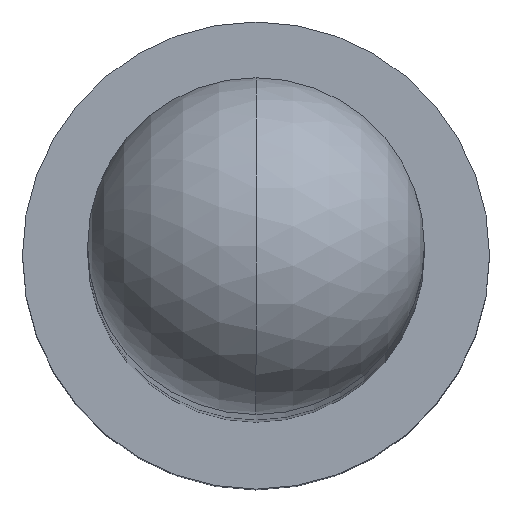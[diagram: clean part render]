
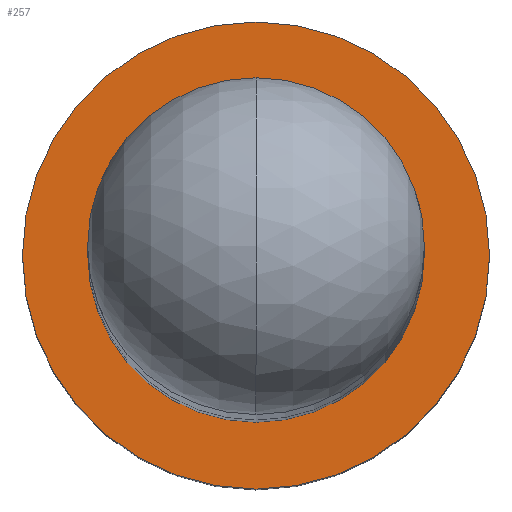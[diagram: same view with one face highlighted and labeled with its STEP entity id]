
A CAD part, top view. The second image highlights one B-rep face of the part: STEP entity #257.
In plain terms, the highlighted planar face has unit normal (0, 0, 1).
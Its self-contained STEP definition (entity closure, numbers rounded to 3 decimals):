
#3 = AXIS2_PLACEMENT_3D ( 'NONE', #442, #35, #36 ) ;
#4 = EDGE_LOOP ( 'NONE', ( #83, #297 ) ) ;
#15 = EDGE_CURVE ( 'NONE', #117, #154, #215, .T. ) ;
#19 = CIRCLE ( 'NONE', #382, 0.51 ) ;
#35 = DIRECTION ( 'NONE',  ( 0., 0., -1. ) ) ;
#36 = DIRECTION ( 'NONE',  ( -1., 0., 0. ) ) ;
#41 = DIRECTION ( 'NONE',  ( 0., 0., 1. ) ) ;
#52 = CIRCLE ( 'NONE', #220, 0.95 ) ;
#68 = EDGE_LOOP ( 'NONE', ( #203, #460 ) ) ;
#70 = DIRECTION ( 'NONE',  ( 1., 0., 0. ) ) ;
#73 = VERTEX_POINT ( 'NONE', #82 ) ;
#82 = CARTESIAN_POINT ( 'NONE',  ( -0.51, 0., -10.29 ) ) ;
#83 = ORIENTED_EDGE ( 'NONE', *, *, #308, .F. ) ;
#102 = AXIS2_PLACEMENT_3D ( 'NONE', #274, #41, #392 ) ;
#107 = DIRECTION ( 'NONE',  ( 0., 0., 1. ) ) ;
#117 = VERTEX_POINT ( 'NONE', #309 ) ;
#142 = FACE_OUTER_BOUND ( 'NONE', #68, .T. ) ;
#145 = DIRECTION ( 'NONE',  ( 0., 0., 1. ) ) ;
#154 = VERTEX_POINT ( 'NONE', #262 ) ;
#203 = ORIENTED_EDGE ( 'NONE', *, *, #15, .T. ) ;
#214 = FACE_BOUND ( 'NONE', #4, .T. ) ;
#215 = CIRCLE ( 'NONE', #399, 0.95 ) ;
#218 = CARTESIAN_POINT ( 'NONE',  ( 0., 0., -10.29 ) ) ;
#220 = AXIS2_PLACEMENT_3D ( 'NONE', #330, #249, #294 ) ;
#241 = VERTEX_POINT ( 'NONE', #407 ) ;
#249 = DIRECTION ( 'NONE',  ( 0., 0., 1. ) ) ;
#251 = CARTESIAN_POINT ( 'NONE',  ( 0., 0., -10.29 ) ) ;
#257 = ADVANCED_FACE ( 'NONE', ( #214, #142 ), #323, .F. ) ;
#262 = CARTESIAN_POINT ( 'NONE',  ( -0.95, 0., -10.29 ) ) ;
#274 = CARTESIAN_POINT ( 'NONE',  ( 0., 0., -10.29 ) ) ;
#291 = EDGE_CURVE ( 'NONE', #154, #117, #52, .T. ) ;
#294 = DIRECTION ( 'NONE',  ( 1., 0., 0. ) ) ;
#297 = ORIENTED_EDGE ( 'NONE', *, *, #420, .F. ) ;
#308 = EDGE_CURVE ( 'NONE', #241, #73, #19, .T. ) ;
#309 = CARTESIAN_POINT ( 'NONE',  ( 0.95, 0., -10.29 ) ) ;
#323 = PLANE ( 'NONE',  #3 ) ;
#330 = CARTESIAN_POINT ( 'NONE',  ( 0., 0., -10.29 ) ) ;
#369 = CIRCLE ( 'NONE', #102, 0.51 ) ;
#370 = DIRECTION ( 'NONE',  ( 1., 0., 0. ) ) ;
#382 = AXIS2_PLACEMENT_3D ( 'NONE', #251, #107, #70 ) ;
#392 = DIRECTION ( 'NONE',  ( 1., 0., 0. ) ) ;
#399 = AXIS2_PLACEMENT_3D ( 'NONE', #218, #145, #370 ) ;
#407 = CARTESIAN_POINT ( 'NONE',  ( 0.51, 0., -10.29 ) ) ;
#420 = EDGE_CURVE ( 'NONE', #73, #241, #369, .T. ) ;
#442 = CARTESIAN_POINT ( 'NONE',  ( 0., 0.51, -10.29 ) ) ;
#460 = ORIENTED_EDGE ( 'NONE', *, *, #291, .T. ) ;
